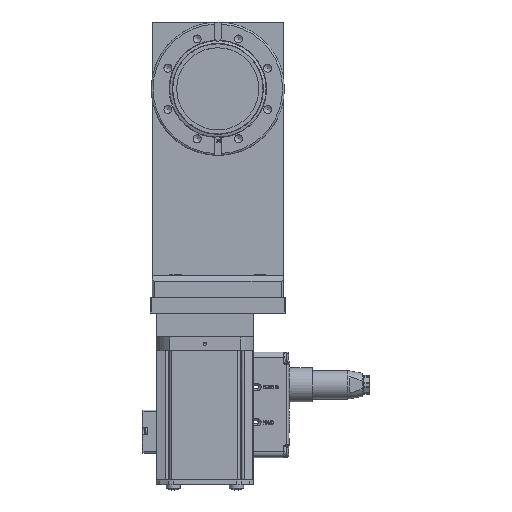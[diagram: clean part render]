
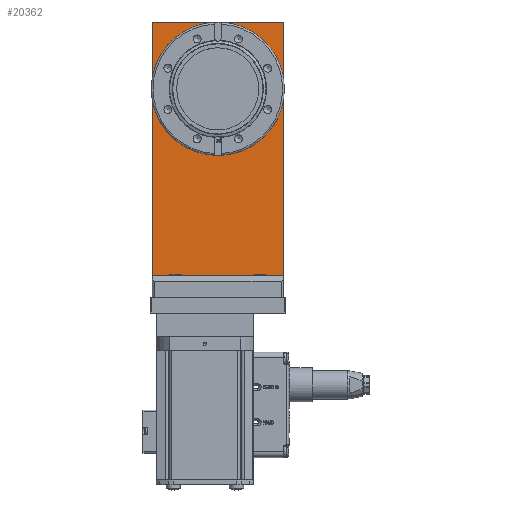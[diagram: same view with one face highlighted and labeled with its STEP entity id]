
A CAD part, top view. The second image highlights one B-rep face of the part: STEP entity #20362.
In plain terms, the highlighted planar face has unit normal (0, 0, 1).
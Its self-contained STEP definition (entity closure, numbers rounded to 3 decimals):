
#9148=LINE('',#65956,#12445);
#9153=LINE('',#65971,#12450);
#9155=LINE('',#65975,#12452);
#9158=LINE('',#65980,#12455);
#12445=VECTOR('',#54659,1.);
#12450=VECTOR('',#54666,1.);
#12452=VECTOR('',#54670,1.);
#12455=VECTOR('',#54675,1.);
#20362=ADVANCED_FACE('',(#23942,#23943),#22585,.T.);
#22585=PLANE('',#49879);
#23942=FACE_BOUND('',#25517,.T.);
#23943=FACE_BOUND('',#25518,.T.);
#25517=EDGE_LOOP('',(#30122,#30123,#30124,#30125));
#25518=EDGE_LOOP('',(#30126));
#30122=ORIENTED_EDGE('',*,*,#43861,.F.);
#30123=ORIENTED_EDGE('',*,*,#43867,.T.);
#30124=ORIENTED_EDGE('',*,*,#43872,.T.);
#30125=ORIENTED_EDGE('',*,*,#43869,.T.);
#30126=ORIENTED_EDGE('',*,*,#43874,.F.);
#39588=VERTEX_POINT('',#65955);
#39589=VERTEX_POINT('',#65957);
#39593=VERTEX_POINT('',#65970);
#39595=VERTEX_POINT('',#65976);
#39597=VERTEX_POINT('',#65985);
#43861=EDGE_CURVE('',#39588,#39589,#9148,.T.);
#43867=EDGE_CURVE('',#39588,#39593,#9153,.T.);
#43869=EDGE_CURVE('',#39595,#39589,#9155,.T.);
#43872=EDGE_CURVE('',#39593,#39595,#9158,.T.);
#43874=EDGE_CURVE('',#39597,#39597,#48302,.T.);
#48302=CIRCLE('',#49877,35.05);
#49877=AXIS2_PLACEMENT_3D('',#65984,#54680,#54681);
#49879=AXIS2_PLACEMENT_3D('',#65987,#54684,#54685);
#54659=DIRECTION('',(-1.,0.,0.));
#54666=DIRECTION('',(0.,1.,0.));
#54670=DIRECTION('',(0.,-1.,0.));
#54675=DIRECTION('',(-1.,0.,0.));
#54680=DIRECTION('',(0.,0.,1.));
#54681=DIRECTION('',(1.,0.,0.));
#54684=DIRECTION('',(0.,0.,1.));
#54685=DIRECTION('',(1.,0.,0.));
#65955=CARTESIAN_POINT('',(56.,-177.8,26.975));
#65956=CARTESIAN_POINT('',(0.,-177.8,26.975));
#65957=CARTESIAN_POINT('',(-56.,-177.8,26.975));
#65970=CARTESIAN_POINT('',(56.,57.05,26.975));
#65971=CARTESIAN_POINT('',(56.,-179.1,26.975));
#65975=CARTESIAN_POINT('',(-56.,57.05,26.975));
#65976=CARTESIAN_POINT('',(-56.,57.05,26.975));
#65980=CARTESIAN_POINT('',(56.,57.05,26.975));
#65984=CARTESIAN_POINT('',(0.,0.,
26.975));
#65985=CARTESIAN_POINT('',(35.05,0.,26.975));
#65987=CARTESIAN_POINT('',(0.,0.,
26.975));
